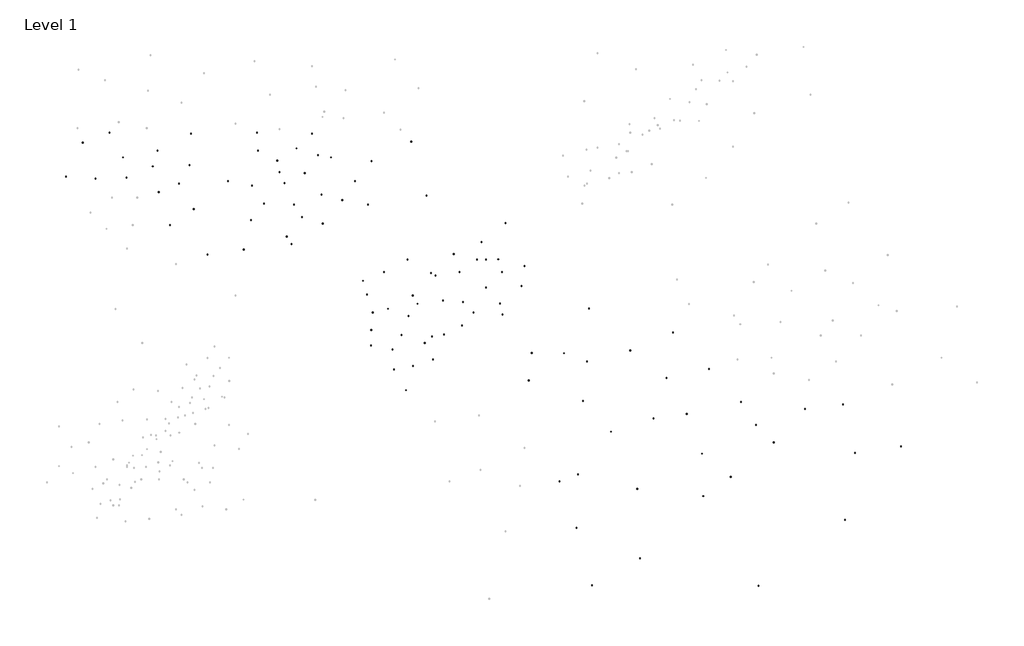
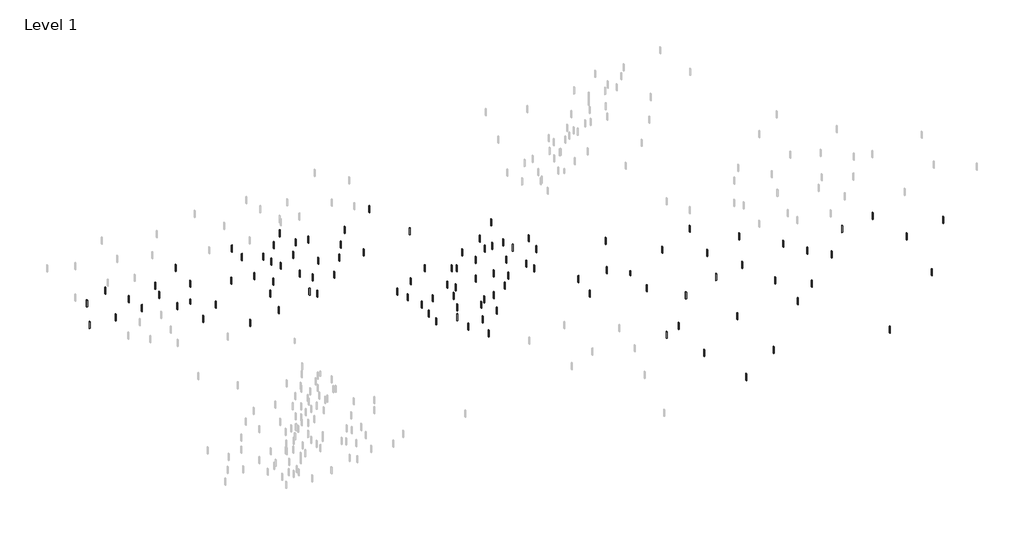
# One storey, part 2 of 3: 112 columns.
"""IFC4 building model written with IfcOpenShell, lengths in millimetres."""

from ifc_helpers import new_model, si_unit, origin, place, context, project, spatial, transform, mapped, element, save
from components import concrete_rectangular_column_12_x_18_4e544043, concrete_rectangular_column_12_x_18_d53c0298

model = new_model("IFC4")

# Units and contexts
model_context = context("Model", 3, world=origin())
ifc_project = project(units=[si_unit("LENGTHUNIT", "METRE", prefix="MILLI")], contexts=[model_context])

# Site, building, storey
site = spatial("IfcSite", under=ifc_project)
building = spatial("IfcBuilding", under=site)
storey = spatial("IfcBuildingStorey", under=building, Name="Level 1", Elevation=0.0)

# Columns
placement = place(None, origin())
concrete_rectangular_column_12_x_18_shape = concrete_rectangular_column_12_x_18_4e544043(model_context)
element("IfcColumn", 1, ObjectType="Concrete-Rectangular-Column : 12 x 18", at=placement, inside=storey, context=model_context, shape_type="MappedRepresentation", body=[
    mapped(concrete_rectangular_column_12_x_18_shape, transform((363757.8333105, 113456.6200125, 0.0), x_axis=(1.0, 0.0, 0.0), y_axis=(0.0, 1.0, 0.0), z_axis=(0.0, 0.0, 1.0))),
])
element("IfcColumn", 2, ObjectType="Concrete-Rectangular-Column : 12 x 18", at=placement, inside=storey, context=model_context, shape_type="MappedRepresentation", body=[
    mapped(concrete_rectangular_column_12_x_18_shape, transform((320395.7430506, 136221.7173989, 0.0), x_axis=(1.0, 0.0, 0.0), y_axis=(0.0, 1.0, 0.0), z_axis=(0.0, 0.0, 1.0))),
])
element("IfcColumn", 3, ObjectType="Concrete-Rectangular-Column : 12 x 18", at=placement, inside=storey, context=model_context, shape_type="MappedRepresentation", body=[
    mapped(concrete_rectangular_column_12_x_18_shape, transform((406035.8713138, 123213.090321, 0.0), x_axis=(1.0, 0.0, 0.0), y_axis=(0.0, 1.0, 0.0), z_axis=(0.0, 0.0, 1.0))),
])
element("IfcColumn", 4, ObjectType="Concrete-Rectangular-Column : 12 x 18", at=placement, inside=storey, context=model_context, shape_type="MappedRepresentation", body=[
    mapped(concrete_rectangular_column_12_x_18_shape, transform((372430.2513624, 104784.2019605, 0.0), x_axis=(1.0, 0.0, 0.0), y_axis=(0.0, 1.0, 0.0), z_axis=(0.0, 0.0, 1.0))),
])
element("IfcColumn", 5, ObjectType="Concrete-Rectangular-Column : 12 x 18", at=placement, inside=storey, context=model_context, shape_type="MappedRepresentation", body=[
    mapped(concrete_rectangular_column_12_x_18_shape, transform((340992.735924, 140557.9264249, 0.0), x_axis=(1.0, 0.0, 0.0), y_axis=(0.0, 1.0, 0.0), z_axis=(0.0, 0.0, 1.0))),
])
element("IfcColumn", 6, ObjectType="Concrete-Rectangular-Column : 12 x 18", at=placement, inside=storey, context=model_context, shape_type="MappedRepresentation", body=[
    mapped(concrete_rectangular_column_12_x_18_shape, transform((387606.9829534, 121044.985808, 0.0), x_axis=(1.0, 0.0, 0.0), y_axis=(0.0, 1.0, 0.0), z_axis=(0.0, 0.0, 1.0))),
])
element("IfcColumn", 7, ObjectType="Concrete-Rectangular-Column : 12 x 18", at=placement, inside=storey, context=model_context, shape_type="MappedRepresentation", body=[
    mapped(concrete_rectangular_column_12_x_18_shape, transform((434221.0131722, 102969.9321041, 0.0), x_axis=(1.0, 0.0, 0.0), y_axis=(0.0, 1.0, 0.0), z_axis=(0.0, 0.0, 1.0))),
])
element("IfcColumn", 8, ObjectType="Concrete-Rectangular-Column : 12 x 18", at=placement, inside=storey, context=model_context, shape_type="MappedRepresentation", body=[
    mapped(concrete_rectangular_column_12_x_18_shape, transform((279880.4824216, 125018.5793541, 0.0), x_axis=(1.0, 0.0, 0.0), y_axis=(0.0, 1.0, 0.0), z_axis=(0.0, 0.0, 1.0))),
])
element("IfcColumn", 9, ObjectType="Concrete-Rectangular-Column : 12 x 18", at=placement, inside=storey, context=model_context, shape_type="MappedRepresentation", body=[
    mapped(concrete_rectangular_column_12_x_18_shape, transform((197375.8669051, 142088.4998058, 0.0), x_axis=(1.0, 0.0, 0.0), y_axis=(0.0, 1.0, 0.0), z_axis=(0.0, 0.0, 1.0))),
])
element("IfcColumn", 10, ObjectType="Concrete-Rectangular-Column : 12 x 18", at=placement, inside=storey, context=model_context, shape_type="MappedRepresentation", body=[
    mapped(concrete_rectangular_column_12_x_18_shape, transform((240761.9147198, 166982.1337979, 0.0), x_axis=(1.0, 0.0, 0.0), y_axis=(0.0, 1.0, 0.0), z_axis=(0.0, 0.0, 1.0))),
])
element("IfcColumn", 11, ObjectType="Concrete-Rectangular-Column : 12 x 18", at=placement, inside=storey, context=model_context, shape_type="MappedRepresentation", body=[
    mapped(concrete_rectangular_column_12_x_18_shape, transform((139618.3187104, 220357.2656657, 0.0), x_axis=(1.0, 0.0, 0.0), y_axis=(0.0, 1.0, 0.0), z_axis=(0.0, 0.0, 1.0))),
])
element("IfcColumn", 12, ObjectType="Concrete-Rectangular-Column : 12 x 18", at=placement, inside=storey, context=model_context, shape_type="MappedRepresentation", body=[
    mapped(concrete_rectangular_column_12_x_18_shape, transform((119301.7974228, 229628.8782884, 0.0), x_axis=(1.0, 0.0, 0.0), y_axis=(0.0, 1.0, 0.0), z_axis=(0.0, 0.0, 1.0))),
])
element("IfcColumn", 13, ObjectType="Concrete-Rectangular-Column : 12 x 18", at=placement, inside=storey, context=model_context, shape_type="MappedRepresentation", body=[
    mapped(concrete_rectangular_column_12_x_18_shape, transform((132652.6542689, 236173.5460221, 0.0), x_axis=(1.0, 0.0, 0.0), y_axis=(0.0, 1.0, 0.0), z_axis=(0.0, 0.0, 1.0))),
])
element("IfcColumn", 14, ObjectType="Concrete-Rectangular-Column : 12 x 18", at=placement, inside=storey, context=model_context, shape_type="MappedRepresentation", body=[
    mapped(concrete_rectangular_column_12_x_18_shape, transform((107692.3566871, 231810.4341997, 0.0), x_axis=(1.0, 0.0, 0.0), y_axis=(0.0, 1.0, 0.0), z_axis=(0.0, 0.0, 1.0))),
])
element("IfcColumn", 15, ObjectType="Concrete-Rectangular-Column : 12 x 18", at=placement, inside=storey, context=model_context, shape_type="MappedRepresentation", body=[
    mapped(concrete_rectangular_column_12_x_18_shape, transform((118721.325386, 212721.8199764, 0.0), x_axis=(1.0, 0.0, 0.0), y_axis=(0.0, 1.0, 0.0), z_axis=(0.0, 0.0, 1.0))),
])
element("IfcColumn", 16, ObjectType="Concrete-Rectangular-Column : 12 x 18", at=placement, inside=storey, context=model_context, shape_type="MappedRepresentation", body=[
    mapped(concrete_rectangular_column_12_x_18_shape, transform((43259.9606037, 232901.2121553, 0.0), x_axis=(1.0, 0.0, 0.0), y_axis=(0.0, 1.0, 0.0), z_axis=(0.0, 0.0, 1.0))),
])
element("IfcColumn", 17, ObjectType="Concrete-Rectangular-Column : 12 x 18", at=placement, inside=storey, context=model_context, shape_type="MappedRepresentation", body=[
    mapped(concrete_rectangular_column_12_x_18_shape, transform((58352.2335602, 233446.6011331, 0.0), x_axis=(1.0, 0.0, 0.0), y_axis=(0.0, 1.0, 0.0), z_axis=(0.0, 0.0, 1.0))),
])
element("IfcColumn", 18, ObjectType="Concrete-Rectangular-Column : 12 x 18", at=placement, inside=storey, context=model_context, shape_type="MappedRepresentation", body=[
    mapped(concrete_rectangular_column_12_x_18_shape, transform((56610.8174498, 243263.6027336, 0.0), x_axis=(1.0, 0.0, 0.0), y_axis=(0.0, 1.0, 0.0), z_axis=(0.0, 0.0, 1.0))),
])
element("IfcColumn", 19, ObjectType="Concrete-Rectangular-Column : 12 x 18", at=placement, inside=storey, context=model_context, shape_type="MappedRepresentation", body=[
    mapped(concrete_rectangular_column_12_x_18_shape, transform((151227.7594461, 244354.3806892, 0.0), x_axis=(1.0, 0.0, 0.0), y_axis=(0.0, 1.0, 0.0), z_axis=(0.0, 0.0, 1.0))),
])
element("IfcColumn", 20, ObjectType="Concrete-Rectangular-Column : 12 x 18", at=placement, inside=storey, context=model_context, shape_type="MappedRepresentation", body=[
    mapped(concrete_rectangular_column_12_x_18_shape, transform((148325.3992622, 254716.7712675, 0.0), x_axis=(1.0, 0.0, 0.0), y_axis=(0.0, 1.0, 0.0), z_axis=(0.0, 0.0, 1.0))),
])
element("IfcColumn", 21, ObjectType="Concrete-Rectangular-Column : 12 x 18", at=placement, inside=storey, context=model_context, shape_type="MappedRepresentation", body=[
    mapped(concrete_rectangular_column_12_x_18_shape, transform((131491.7101953, 241627.4358002, 0.0), x_axis=(1.0, 0.0, 0.0), y_axis=(0.0, 1.0, 0.0), z_axis=(0.0, 0.0, 1.0))),
])
element("IfcColumn", 22, ObjectType="Concrete-Rectangular-Column : 12 x 18", at=placement, inside=storey, context=model_context, shape_type="MappedRepresentation", body=[
    mapped(concrete_rectangular_column_12_x_18_shape, transform((144842.5670415, 235628.1570443, 0.0), x_axis=(1.0, 0.0, 0.0), y_axis=(0.0, 1.0, 0.0), z_axis=(0.0, 0.0, 1.0))),
])
element("IfcColumn", 23, ObjectType="Concrete-Rectangular-Column : 12 x 18", at=placement, inside=storey, context=model_context, shape_type="MappedRepresentation", body=[
    mapped(concrete_rectangular_column_12_x_18_shape, transform((71122.6183695, 238900.4909111, 0.0), x_axis=(1.0, 0.0, 0.0), y_axis=(0.0, 1.0, 0.0), z_axis=(0.0, 0.0, 1.0))),
])
element("IfcColumn", 24, ObjectType="Concrete-Rectangular-Column : 12 x 18", at=placement, inside=storey, context=model_context, shape_type="MappedRepresentation", body=[
    mapped(concrete_rectangular_column_12_x_18_shape, transform((50225.6250451, 255262.1602453, 0.0), x_axis=(1.0, 0.0, 0.0), y_axis=(0.0, 1.0, 0.0), z_axis=(0.0, 0.0, 1.0))),
])
element("IfcColumn", 25, ObjectType="Concrete-Rectangular-Column : 12 x 18", at=placement, inside=storey, context=model_context, shape_type="MappedRepresentation", body=[
    mapped(concrete_rectangular_column_12_x_18_shape, transform((89697.7235467, 254716.7712675, 0.0), x_axis=(1.0, 0.0, 0.0), y_axis=(0.0, 1.0, 0.0), z_axis=(0.0, 0.0, 1.0))),
])
element("IfcColumn", 26, ObjectType="Concrete-Rectangular-Column : 12 x 18", at=placement, inside=storey, context=model_context, shape_type="MappedRepresentation", body=[
    mapped(concrete_rectangular_column_12_x_18_shape, transform((74024.9785534, 226356.5444216, 0.0), x_axis=(1.0, 0.0, 0.0), y_axis=(0.0, 1.0, 0.0), z_axis=(0.0, 0.0, 1.0))),
])
element("IfcColumn", 27, ObjectType="Concrete-Rectangular-Column : 12 x 18", at=placement, inside=storey, context=model_context, shape_type="MappedRepresentation", body=[
    mapped(concrete_rectangular_column_12_x_18_shape, transform((282725.4691635, 169827.1205398, 0.0), x_axis=(1.0, 0.0, 0.0), y_axis=(0.0, 1.0, 0.0), z_axis=(0.0, 0.0, 1.0))),
])
element("IfcColumn", 28, ObjectType="Concrete-Rectangular-Column : 12 x 18", at=placement, inside=storey, context=model_context, shape_type="MappedRepresentation", body=[
    mapped(concrete_rectangular_column_12_x_18_shape, transform((306196.6097846, 82343.7782249, 0.0), x_axis=(1.0, 0.0, 0.0), y_axis=(0.0, 1.0, 0.0), z_axis=(0.0, 0.0, 1.0))),
])
element("IfcColumn", 29, ObjectType="Concrete-Rectangular-Column : 12 x 18", at=placement, inside=storey, context=model_context, shape_type="MappedRepresentation", body=[
    mapped(concrete_rectangular_column_12_x_18_shape, transform((268500.5354538, 85900.0116524, 0.0), x_axis=(1.0, 0.0, 0.0), y_axis=(0.0, 1.0, 0.0), z_axis=(0.0, 0.0, 1.0))),
])
element("IfcColumn", 30, ObjectType="Concrete-Rectangular-Column : 12 x 18", at=placement, inside=storey, context=model_context, shape_type="MappedRepresentation", body=[
    mapped(concrete_rectangular_column_12_x_18_shape, transform((284147.9625345, 35401.4969828, 0.0), x_axis=(1.0, 0.0, 0.0), y_axis=(0.0, 1.0, 0.0), z_axis=(0.0, 0.0, 1.0))),
])
element("IfcColumn", 31, ObjectType="Concrete-Rectangular-Column : 12 x 18", at=placement, inside=storey, context=model_context, shape_type="MappedRepresentation", body=[
    mapped(concrete_rectangular_column_12_x_18_shape, transform((338202.7106315, 78787.5447975, 0.0), x_axis=(1.0, 0.0, 0.0), y_axis=(0.0, 1.0, 0.0), z_axis=(0.0, 0.0, 1.0))),
])
element("IfcColumn", 32, ObjectType="Concrete-Rectangular-Column : 12 x 18", at=placement, inside=storey, context=model_context, shape_type="MappedRepresentation", body=[
    mapped(concrete_rectangular_column_12_x_18_shape, transform((314020.323325, 116483.6191283, 0.0), x_axis=(1.0, 0.0, 0.0), y_axis=(0.0, 1.0, 0.0), z_axis=(0.0, 0.0, 1.0))),
])
element("IfcColumn", 33, ObjectType="Concrete-Rectangular-Column : 12 x 18", at=placement, inside=storey, context=model_context, shape_type="MappedRepresentation", body=[
    mapped(concrete_rectangular_column_12_x_18_shape, transform((253564.3550586, 134976.032951, 0.0), x_axis=(1.0, 0.0, 0.0), y_axis=(0.0, 1.0, 0.0), z_axis=(0.0, 0.0, 1.0))),
])
element("IfcColumn", 34, ObjectType="Concrete-Rectangular-Column : 12 x 18", at=placement, inside=storey, context=model_context, shape_type="MappedRepresentation", body=[
    mapped(concrete_rectangular_column_12_x_18_shape, transform((115238.4931653, 198541.7065535, 0.0), x_axis=(1.0, 0.0, 0.0), y_axis=(0.0, 1.0, 0.0), z_axis=(0.0, 0.0, 1.0))),
])
element("IfcColumn", 35, ObjectType="Concrete-Rectangular-Column : 12 x 18", at=placement, inside=storey, context=model_context, shape_type="MappedRepresentation", body=[
    mapped(concrete_rectangular_column_12_x_18_shape, transform((138457.3746368, 201268.6514425, 0.0), x_axis=(1.0, 0.0, 0.0), y_axis=(0.0, 1.0, 0.0), z_axis=(0.0, 0.0, 1.0))),
])
element("IfcColumn", 36, ObjectType="Concrete-Rectangular-Column : 12 x 18", at=placement, inside=storey, context=model_context, shape_type="MappedRepresentation", body=[
    mapped(concrete_rectangular_column_12_x_18_shape, transform((134974.5424161, 230719.656244, 0.0), x_axis=(1.0, 0.0, 0.0), y_axis=(0.0, 1.0, 0.0), z_axis=(0.0, 0.0, 1.0))),
])
element("IfcColumn", 37, ObjectType="Concrete-Rectangular-Column : 12 x 18", at=placement, inside=storey, context=model_context, shape_type="MappedRepresentation", body=[
    mapped(concrete_rectangular_column_12_x_18_shape, transform((169222.3925865, 231810.4341997, 0.0), x_axis=(1.0, 0.0, 0.0), y_axis=(0.0, 1.0, 0.0), z_axis=(0.0, 0.0, 1.0))),
])
element("IfcColumn", 38, ObjectType="Concrete-Rectangular-Column : 12 x 18", at=placement, inside=storey, context=model_context, shape_type="MappedRepresentation", body=[
    mapped(concrete_rectangular_column_12_x_18_shape, transform((157612.9518508, 243263.6027336, 0.0), x_axis=(1.0, 0.0, 0.0), y_axis=(0.0, 1.0, 0.0), z_axis=(0.0, 0.0, 1.0))),
])
element("IfcColumn", 39, ObjectType="Concrete-Rectangular-Column : 12 x 18", at=placement, inside=storey, context=model_context, shape_type="MappedRepresentation", body=[
    mapped(concrete_rectangular_column_12_x_18_shape, transform((196504.5783155, 250899.0484229, 0.0), x_axis=(1.0, 0.0, 0.0), y_axis=(0.0, 1.0, 0.0), z_axis=(0.0, 0.0, 1.0))),
])
element("IfcColumn", 40, ObjectType="Concrete-Rectangular-Column : 12 x 18", at=placement, inside=storey, context=model_context, shape_type="MappedRepresentation", body=[
    mapped(concrete_rectangular_column_12_x_18_shape, transform((140779.2627839, 247626.714556, 0.0), x_axis=(1.0, 0.0, 0.0), y_axis=(0.0, 1.0, 0.0), z_axis=(0.0, 0.0, 1.0))),
])
element("IfcColumn", 41, ObjectType="Concrete-Rectangular-Column : 12 x 18", at=placement, inside=storey, context=model_context, shape_type="MappedRepresentation", body=[
    mapped(concrete_rectangular_column_12_x_18_shape, transform((121623.68557, 255262.1602453, 0.0), x_axis=(1.0, 0.0, 0.0), y_axis=(0.0, 1.0, 0.0), z_axis=(0.0, 0.0, 1.0))),
])
element("IfcColumn", 42, ObjectType="Concrete-Rectangular-Column : 12 x 18", at=placement, inside=storey, context=model_context, shape_type="MappedRepresentation", body=[
    mapped(concrete_rectangular_column_12_x_18_shape, transform((122204.1576068, 246535.9366004, 0.0), x_axis=(1.0, 0.0, 0.0), y_axis=(0.0, 1.0, 0.0), z_axis=(0.0, 0.0, 1.0))),
])
element("IfcColumn", 43, ObjectType="Concrete-Rectangular-Column : 12 x 18", at=placement, inside=storey, context=model_context, shape_type="MappedRepresentation", body=[
    mapped(concrete_rectangular_column_12_x_18_shape, transform((152969.1755565, 225265.766466, 0.0), x_axis=(1.0, 0.0, 0.0), y_axis=(0.0, 1.0, 0.0), z_axis=(0.0, 0.0, 1.0))),
])
element("IfcColumn", 44, ObjectType="Concrete-Rectangular-Column : 12 x 18", at=placement, inside=storey, context=model_context, shape_type="MappedRepresentation", body=[
    mapped(concrete_rectangular_column_12_x_18_shape, transform((125106.5177907, 220902.6546435, 0.0), x_axis=(1.0, 0.0, 0.0), y_axis=(0.0, 1.0, 0.0), z_axis=(0.0, 0.0, 1.0))),
])
element("IfcColumn", 45, ObjectType="Concrete-Rectangular-Column : 12 x 18", at=placement, inside=storey, context=model_context, shape_type="MappedRepresentation", body=[
    mapped(concrete_rectangular_column_12_x_18_shape, transform((173193.4795986, 183340.8075641, 0.0), x_axis=(1.0, 0.0, 0.0), y_axis=(0.0, 1.0, 0.0), z_axis=(0.0, 0.0, 1.0))),
])
element("IfcColumn", 46, ObjectType="Concrete-Rectangular-Column : 12 x 18", at=placement, inside=storey, context=model_context, shape_type="MappedRepresentation", body=[
    mapped(concrete_rectangular_column_12_x_18_shape, transform((175607.5849912, 220357.2656657, 0.0), x_axis=(1.0, 0.0, 0.0), y_axis=(0.0, 1.0, 0.0), z_axis=(0.0, 0.0, 1.0))),
])
element("IfcColumn", 47, ObjectType="Concrete-Rectangular-Column : 12 x 18", at=placement, inside=storey, context=model_context, shape_type="MappedRepresentation", body=[
    mapped(concrete_rectangular_column_12_x_18_shape, transform((206622.0738165, 156313.4335156, 0.0), x_axis=(1.0, 0.0, 0.0), y_axis=(0.0, 1.0, 0.0), z_axis=(0.0, 0.0, 1.0))),
])
element("IfcColumn", 48, ObjectType="Concrete-Rectangular-Column : 12 x 18", at=placement, inside=storey, context=model_context, shape_type="MappedRepresentation", body=[
    mapped(concrete_rectangular_column_12_x_18_shape, transform((194766.1156975, 193730.9777909, 0.0), x_axis=(1.0, 0.0, 0.0), y_axis=(0.0, 1.0, 0.0), z_axis=(0.0, 0.0, 1.0))),
])
element("IfcColumn", 49, ObjectType="Concrete-Rectangular-Column : 12 x 18", at=placement, inside=storey, context=model_context, shape_type="MappedRepresentation", body=[
    mapped(concrete_rectangular_column_12_x_18_shape, transform((177191.7441578, 241475.8859571, 0.0), x_axis=(1.0, 0.0, 0.0), y_axis=(0.0, 1.0, 0.0), z_axis=(0.0, 0.0, 1.0))),
])
element("IfcColumn", 50, ObjectType="Concrete-Rectangular-Column : 12 x 18", at=placement, inside=storey, context=model_context, shape_type="MappedRepresentation", body=[
    mapped(concrete_rectangular_column_12_x_18_shape, transform((163052.7854946, 222498.1483233, 0.0), x_axis=(1.0, 0.0, 0.0), y_axis=(0.0, 1.0, 0.0), z_axis=(0.0, 0.0, 1.0))),
])
element("IfcColumn", 51, ObjectType="Concrete-Rectangular-Column : 12 x 18", at=placement, inside=storey, context=model_context, shape_type="MappedRepresentation", body=[
    mapped(concrete_rectangular_column_12_x_18_shape, transform((136121.43566, 204785.5931983, 0.0), x_axis=(1.0, 0.0, 0.0), y_axis=(0.0, 1.0, 0.0), z_axis=(0.0, 0.0, 1.0))),
])
element("IfcColumn", 52, ObjectType="Concrete-Rectangular-Column : 12 x 18", at=placement, inside=storey, context=model_context, shape_type="MappedRepresentation", body=[
    mapped(concrete_rectangular_column_12_x_18_shape, transform((143527.5568645, 214274.4620152, 0.0), x_axis=(1.0, 0.0, 0.0), y_axis=(0.0, 1.0, 0.0), z_axis=(0.0, 0.0, 1.0))),
])
element("IfcColumn", 53, ObjectType="Concrete-Rectangular-Column : 12 x 18", at=placement, inside=storey, context=model_context, shape_type="MappedRepresentation", body=[
    mapped(concrete_rectangular_column_12_x_18_shape, transform((153626.8130525, 211111.5057429, 0.0), x_axis=(1.0, 0.0, 0.0), y_axis=(0.0, 1.0, 0.0), z_axis=(0.0, 0.0, 1.0))),
])
element("IfcColumn", 54, ObjectType="Concrete-Rectangular-Column : 12 x 18", at=placement, inside=storey, context=model_context, shape_type="MappedRepresentation", body=[
    mapped(concrete_rectangular_column_12_x_18_shape, transform((73506.0472945, 246536.6159928, 0.0), x_axis=(1.0, 0.0, 0.0), y_axis=(0.0, 1.0, 0.0), z_axis=(0.0, 0.0, 1.0))),
])
element("IfcColumn", 55, ObjectType="Concrete-Rectangular-Column : 12 x 18", at=placement, inside=storey, context=model_context, shape_type="MappedRepresentation", body=[
    mapped(concrete_rectangular_column_12_x_18_shape, transform((88991.5734494, 239578.1121937, 0.0), x_axis=(1.0, 0.0, 0.0), y_axis=(0.0, 1.0, 0.0), z_axis=(0.0, 0.0, 1.0))),
])
element("IfcColumn", 56, ObjectType="Concrete-Rectangular-Column : 12 x 18", at=placement, inside=storey, context=model_context, shape_type="MappedRepresentation", body=[
    mapped(concrete_rectangular_column_12_x_18_shape, transform((91011.424687, 218070.009542, 0.0), x_axis=(1.0, 0.0, 0.0), y_axis=(0.0, 1.0, 0.0), z_axis=(0.0, 0.0, 1.0))),
])
element("IfcColumn", 57, ObjectType="Concrete-Rectangular-Column : 12 x 18", at=placement, inside=storey, context=model_context, shape_type="MappedRepresentation", body=[
    mapped(concrete_rectangular_column_12_x_18_shape, transform((79565.6010072, 210478.9144885, 0.0), x_axis=(1.0, 0.0, 0.0), y_axis=(0.0, 1.0, 0.0), z_axis=(0.0, 0.0, 1.0))),
])
element("IfcColumn", 58, ObjectType="Concrete-Rectangular-Column : 12 x 18", at=placement, inside=storey, context=model_context, shape_type="MappedRepresentation", body=[
    mapped(concrete_rectangular_column_12_x_18_shape, transform((29069.3200673, 233884.7909036, 0.0), x_axis=(1.0, 0.0, 0.0), y_axis=(0.0, 1.0, 0.0), z_axis=(0.0, 0.0, 1.0))),
])
element("IfcColumn", 59, ObjectType="Concrete-Rectangular-Column : 12 x 18", at=placement, inside=storey, context=model_context, shape_type="MappedRepresentation", body=[
    mapped(concrete_rectangular_column_12_x_18_shape, transform((37148.7250177, 250332.1635196, 0.0), x_axis=(1.0, 0.0, 0.0), y_axis=(0.0, 1.0, 0.0), z_axis=(0.0, 0.0, 1.0))),
])
element("IfcColumn", 60, ObjectType="Concrete-Rectangular-Column : 12 x 18", at=placement, inside=storey, context=model_context, shape_type="MappedRepresentation", body=[
    mapped(concrete_rectangular_column_12_x_18_shape, transform((356459.8360647, 124433.669062, 0.0), x_axis=(1.0, 0.0, 0.0), y_axis=(0.0, 1.0, 0.0), z_axis=(0.0, 0.0, 1.0))),
])
element("IfcColumn", 61, ObjectType="Concrete-Rectangular-Column : 12 x 18", at=placement, inside=storey, context=model_context, shape_type="MappedRepresentation", body=[
    mapped(concrete_rectangular_column_12_x_18_shape, transform((323461.1176224, 158257.3554654, 0.0), x_axis=(1.0, 0.0, 0.0), y_axis=(0.0, 1.0, 0.0), z_axis=(0.0, 0.0, 1.0))),
])
element("IfcColumn", 62, ObjectType="Concrete-Rectangular-Column : 12 x 18", at=placement, inside=storey, context=model_context, shape_type="MappedRepresentation", body=[
    mapped(concrete_rectangular_column_12_x_18_shape, transform((351510.0282984, 88135.0787755, 0.0), x_axis=(1.0, 0.0, 0.0), y_axis=(0.0, 1.0, 0.0), z_axis=(0.0, 0.0, 1.0))),
])
element("IfcColumn", 63, ObjectType="Concrete-Rectangular-Column : 12 x 18", at=placement, inside=storey, context=model_context, shape_type="MappedRepresentation", body=[
    mapped(concrete_rectangular_column_12_x_18_shape, transform((411732.6894556, 99684.6302303, 0.0), x_axis=(1.0, 0.0, 0.0), y_axis=(0.0, 1.0, 0.0), z_axis=(0.0, 0.0, 1.0))),
])
element("IfcColumn", 64, ObjectType="Concrete-Rectangular-Column : 12 x 18", at=placement, inside=storey, context=model_context, shape_type="MappedRepresentation", body=[
    mapped(concrete_rectangular_column_12_x_18_shape, transform((254988.7768546, 148357.7399327, 0.0), x_axis=(1.0, 0.0, 0.0), y_axis=(0.0, 1.0, 0.0), z_axis=(0.0, 0.0, 1.0))),
])
element("IfcColumn", 65, ObjectType="Concrete-Rectangular-Column : 12 x 18", at=placement, inside=storey, context=model_context, shape_type="MappedRepresentation", body=[
    mapped(concrete_rectangular_column_12_x_18_shape, transform((207140.6351133, 145057.8680885, 0.0), x_axis=(1.0, 0.0, 0.0), y_axis=(0.0, 1.0, 0.0), z_axis=(0.0, 0.0, 1.0))),
])
element("IfcColumn", 66, ObjectType="Concrete-Rectangular-Column : 12 x 18", at=placement, inside=storey, context=model_context, shape_type="MappedRepresentation", body=[
    mapped(concrete_rectangular_column_12_x_18_shape, transform((232714.6419061, 193730.9777909, 0.0), x_axis=(1.0, 0.0, 0.0), y_axis=(0.0, 1.0, 0.0), z_axis=(0.0, 0.0, 1.0))),
])
element("IfcColumn", 67, ObjectType="Concrete-Rectangular-Column : 12 x 18", at=placement, inside=storey, context=model_context, shape_type="MappedRepresentation", body=[
    mapped(concrete_rectangular_column_12_x_18_shape, transform((221165.0904513, 161557.2273096, 0.0), x_axis=(1.0, 0.0, 0.0), y_axis=(0.0, 1.0, 0.0), z_axis=(0.0, 0.0, 1.0))),
])
element("IfcColumn", 68, ObjectType="Concrete-Rectangular-Column : 12 x 18", at=placement, inside=storey, context=model_context, shape_type="MappedRepresentation", body=[
    mapped(concrete_rectangular_column_12_x_18_shape, transform((193941.1477364, 130208.4447894, 0.0), x_axis=(1.0, 0.0, 0.0), y_axis=(0.0, 1.0, 0.0), z_axis=(0.0, 0.0, 1.0))),
])
element("IfcColumn", 69, ObjectType="Concrete-Rectangular-Column : 12 x 18", at=placement, inside=storey, context=model_context, shape_type="MappedRepresentation", body=[
    mapped(concrete_rectangular_column_12_x_18_shape, transform((97643.8156297, 196111.2894848, 0.0), x_axis=(1.0, 0.0, 0.0), y_axis=(0.0, 1.0, 0.0), z_axis=(0.0, 0.0, 1.0))),
])
element("IfcColumn", 70, ObjectType="Concrete-Rectangular-Column : 12 x 18", at=placement, inside=storey, context=model_context, shape_type="MappedRepresentation", body=[
    mapped(concrete_rectangular_column_12_x_18_shape, transform((203988.9832892, 224805.6287872, 0.0), x_axis=(1.0, 0.0, 0.0), y_axis=(0.0, 1.0, 0.0), z_axis=(0.0, 0.0, 1.0))),
])
element("IfcColumn", 71, ObjectType="Concrete-Rectangular-Column : 12 x 18", at=placement, inside=storey, context=model_context, shape_type="MappedRepresentation", body=[
    mapped(concrete_rectangular_column_12_x_18_shape, transform((302788.0895831, 149519.017787, 0.0), x_axis=(1.0, 0.0, 0.0), y_axis=(0.0, 1.0, 0.0), z_axis=(0.0, 0.0, 1.0))),
])
element("IfcColumn", 72, ObjectType="Concrete-Rectangular-Column : 12 x 18", at=placement, inside=storey, context=model_context, shape_type="MappedRepresentation", body=[
    mapped(concrete_rectangular_column_12_x_18_shape, transform((270713.3352571, 148182.56969, 0.0), x_axis=(1.0, 0.0, 0.0), y_axis=(0.0, 1.0, 0.0), z_axis=(0.0, 0.0, 1.0))),
])
element("IfcColumn", 73, ObjectType="Concrete-Rectangular-Column : 12 x 18", at=placement, inside=storey, context=model_context, shape_type="MappedRepresentation", body=[
    mapped(concrete_rectangular_column_12_x_18_shape, transform((337535.7401028, 99402.2141527, 0.0), x_axis=(1.0, 0.0, 0.0), y_axis=(0.0, 1.0, 0.0), z_axis=(0.0, 0.0, 1.0))),
])
element("IfcColumn", 74, ObjectType="Concrete-Rectangular-Column : 12 x 18", at=placement, inside=storey, context=model_context, shape_type="MappedRepresentation", body=[
    mapped(concrete_rectangular_column_12_x_18_shape, transform((330185.2755698, 118780.711558, 0.0), x_axis=(1.0, 0.0, 0.0), y_axis=(0.0, 1.0, 0.0), z_axis=(0.0, 0.0, 1.0))),
])
element("IfcColumn", 75, ObjectType="Concrete-Rectangular-Column : 12 x 18", at=placement, inside=storey, context=model_context, shape_type="MappedRepresentation", body=[
    mapped(concrete_rectangular_column_12_x_18_shape, transform((277395.5757417, 89378.8534259, 0.0), x_axis=(1.0, 0.0, 0.0), y_axis=(0.0, 1.0, 0.0), z_axis=(0.0, 0.0, 1.0))),
])
element("IfcColumn", 76, ObjectType="Concrete-Rectangular-Column : 12 x 18", at=placement, inside=storey, context=model_context, shape_type="MappedRepresentation", body=[
    mapped(concrete_rectangular_column_12_x_18_shape, transform((293432.9529047, 110093.798928, 0.0), x_axis=(1.0, 0.0, 0.0), y_axis=(0.0, 1.0, 0.0), z_axis=(0.0, 0.0, 1.0))),
])
element("IfcColumn", 77, ObjectType="Concrete-Rectangular-Column : 12 x 18", at=placement, inside=storey, context=model_context, shape_type="MappedRepresentation", body=[
    mapped(concrete_rectangular_column_12_x_18_shape, transform((407031.0411423, 67327.4598268, 0.0), x_axis=(1.0, 0.0, 0.0), y_axis=(0.0, 1.0, 0.0), z_axis=(0.0, 0.0, 1.0))),
])
element("IfcColumn", 78, ObjectType="Concrete-Rectangular-Column : 12 x 18", at=placement, inside=storey, context=model_context, shape_type="MappedRepresentation", body=[
    mapped(concrete_rectangular_column_12_x_18_shape, transform((364932.9260895, 35252.7055009, 0.0), x_axis=(1.0, 0.0, 0.0), y_axis=(0.0, 1.0, 0.0), z_axis=(0.0, 0.0, 1.0))),
])
element("IfcColumn", 79, ObjectType="Concrete-Rectangular-Column : 12 x 18", at=placement, inside=storey, context=model_context, shape_type="MappedRepresentation", body=[
    mapped(concrete_rectangular_column_12_x_18_shape, transform((307465.6579223, 48617.18647, 0.0), x_axis=(1.0, 0.0, 0.0), y_axis=(0.0, 1.0, 0.0), z_axis=(0.0, 0.0, 1.0))),
])
element("IfcColumn", 80, ObjectType="Concrete-Rectangular-Column : 12 x 18", at=placement, inside=storey, context=model_context, shape_type="MappedRepresentation", body=[
    mapped(concrete_rectangular_column_12_x_18_shape, transform((276727.3516933, 63318.1155361, 0.0), x_axis=(1.0, 0.0, 0.0), y_axis=(0.0, 1.0, 0.0), z_axis=(0.0, 0.0, 1.0))),
])
element("IfcColumn", 81, ObjectType="Concrete-Rectangular-Column : 12 x 18", at=placement, inside=storey, context=model_context, shape_type="MappedRepresentation", body=[
    mapped(concrete_rectangular_column_12_x_18_shape, transform((187508.896985, 149920.7255701, 0.0), x_axis=(1.0, 0.0, 0.0), y_axis=(0.0, 1.0, 0.0), z_axis=(0.0, 0.0, 1.0))),
])
element("IfcColumn", 82, ObjectType="Concrete-Rectangular-Column : 12 x 18", at=placement, inside=storey, context=model_context, shape_type="MappedRepresentation", body=[
    mapped(concrete_rectangular_column_12_x_18_shape, transform((217140.354332, 196342.1141509, 0.0), x_axis=(1.0, 0.0, 0.0), y_axis=(0.0, 1.0, 0.0), z_axis=(0.0, 0.0, 1.0))),
])
element("IfcColumn", 83, ObjectType="Concrete-Rectangular-Column : 12 x 18", at=placement, inside=storey, context=model_context, shape_type="MappedRepresentation", body=[
    mapped(concrete_rectangular_column_12_x_18_shape, transform((228382.982377, 193698.7922157, 0.0), x_axis=(1.0, 0.0, 0.0), y_axis=(0.0, 1.0, 0.0), z_axis=(0.0, 0.0, 1.0))),
])
element("IfcColumn", 84, ObjectType="Concrete-Rectangular-Column : 12 x 18", at=placement, inside=storey, context=model_context, shape_type="MappedRepresentation", body=[
    mapped(concrete_rectangular_column_12_x_18_shape, transform((250009.5625969, 180740.1914942, 0.0), x_axis=(1.0, 0.0, 0.0), y_axis=(0.0, 1.0, 0.0), z_axis=(0.0, 0.0, 1.0))),
])
element("IfcColumn", 85, ObjectType="Concrete-Rectangular-Column : 12 x 18", at=placement, inside=storey, context=model_context, shape_type="MappedRepresentation", body=[
    mapped(concrete_rectangular_column_12_x_18_shape, transform((238735.2921624, 193765.3756844, 0.0), x_axis=(1.0, 0.0, 0.0), y_axis=(0.0, 1.0, 0.0), z_axis=(0.0, 0.0, 1.0))),
])
element("IfcColumn", 86, ObjectType="Concrete-Rectangular-Column : 12 x 18", at=placement, inside=storey, context=model_context, shape_type="MappedRepresentation", body=[
    mapped(concrete_rectangular_column_12_x_18_shape, transform((242316.9088681, 211390.7996202, 0.0), x_axis=(1.0, 0.0, 0.0), y_axis=(0.0, 1.0, 0.0), z_axis=(0.0, 0.0, 1.0))),
])
element("IfcColumn", 87, ObjectType="Concrete-Rectangular-Column : 12 x 18", at=placement, inside=storey, context=model_context, shape_type="MappedRepresentation", body=[
    mapped(concrete_rectangular_column_12_x_18_shape, transform((230533.4782941, 202185.2277038, 0.0), x_axis=(1.0, 0.0, 0.0), y_axis=(0.0, 1.0, 0.0), z_axis=(0.0, 0.0, 1.0))),
])
element("IfcColumn", 88, ObjectType="Concrete-Rectangular-Column : 12 x 18", at=placement, inside=storey, context=model_context, shape_type="MappedRepresentation", body=[
    mapped(concrete_rectangular_column_12_x_18_shape, transform((219856.7248779, 187526.9885444, 0.0), x_axis=(1.0, 0.0, 0.0), y_axis=(0.0, 1.0, 0.0), z_axis=(0.0, 0.0, 1.0))),
])
element("IfcColumn", 89, ObjectType="Concrete-Rectangular-Column : 12 x 18", at=placement, inside=storey, context=model_context, shape_type="MappedRepresentation", body=[
    mapped(concrete_rectangular_column_12_x_18_shape, transform((211897.39509, 173792.3967147, 0.0), x_axis=(1.0, 0.0, 0.0), y_axis=(0.0, 1.0, 0.0), z_axis=(0.0, 0.0, 1.0))),
])
element("IfcColumn", 90, ObjectType="Concrete-Rectangular-Column : 12 x 18", at=placement, inside=storey, context=model_context, shape_type="MappedRepresentation", body=[
    mapped(concrete_rectangular_column_12_x_18_shape, transform((206074.6639368, 187208.008759, 0.0), x_axis=(1.0, 0.0, 0.0), y_axis=(0.0, 1.0, 0.0), z_axis=(0.0, 0.0, 1.0))),
])
element("IfcColumn", 91, ObjectType="Concrete-Rectangular-Column : 12 x 18", at=placement, inside=storey, context=model_context, shape_type="MappedRepresentation", body=[
    mapped(concrete_rectangular_column_12_x_18_shape, transform((197237.9746378, 176173.7744624, 0.0), x_axis=(1.0, 0.0, 0.0), y_axis=(0.0, 1.0, 0.0), z_axis=(0.0, 0.0, 1.0))),
])
element("IfcColumn", 92, ObjectType="Concrete-Rectangular-Column : 12 x 18", at=placement, inside=storey, context=model_context, shape_type="MappedRepresentation", body=[
    mapped(concrete_rectangular_column_12_x_18_shape, transform((183259.7739878, 187612.1784292, 0.0), x_axis=(1.0, 0.0, 0.0), y_axis=(0.0, 1.0, 0.0), z_axis=(0.0, 0.0, 1.0))),
])
element("IfcColumn", 93, ObjectType="Concrete-Rectangular-Column : 12 x 18", at=placement, inside=storey, context=model_context, shape_type="MappedRepresentation", body=[
    mapped(concrete_rectangular_column_12_x_18_shape, transform((177872.6846417, 167838.5465634, 0.0), x_axis=(1.0, 0.0, 0.0), y_axis=(0.0, 1.0, 0.0), z_axis=(0.0, 0.0, 1.0))),
])
element("IfcColumn", 94, ObjectType="Concrete-Rectangular-Column : 12 x 18", at=placement, inside=storey, context=model_context, shape_type="MappedRepresentation", body=[
    mapped(concrete_rectangular_column_12_x_18_shape, transform((175127.8684497, 176626.0011071, 0.0), x_axis=(1.0, 0.0, 0.0), y_axis=(0.0, 1.0, 0.0), z_axis=(0.0, 0.0, 1.0))),
])
element("IfcColumn", 95, ObjectType="Concrete-Rectangular-Column : 12 x 18", at=placement, inside=storey, context=model_context, shape_type="MappedRepresentation", body=[
    mapped(concrete_rectangular_column_12_x_18_shape, transform((177135.2955075, 159499.1394625, 0.0), x_axis=(1.0, 0.0, 0.0), y_axis=(0.0, 1.0, 0.0), z_axis=(0.0, 0.0, 1.0))),
])
element("IfcColumn", 96, ObjectType="Concrete-Rectangular-Column : 12 x 18", at=placement, inside=storey, context=model_context, shape_type="MappedRepresentation", body=[
    mapped(concrete_rectangular_column_12_x_18_shape, transform((177030.8058297, 151906.9573538, 0.0), x_axis=(1.0, 0.0, 0.0), y_axis=(0.0, 1.0, 0.0), z_axis=(0.0, 0.0, 1.0))),
])
element("IfcColumn", 97, ObjectType="Concrete-Rectangular-Column : 12 x 18", at=placement, inside=storey, context=model_context, shape_type="MappedRepresentation", body=[
    mapped(concrete_rectangular_column_12_x_18_shape, transform((188237.915685, 140340.0312248, 0.0), x_axis=(1.0, 0.0, 0.0), y_axis=(0.0, 1.0, 0.0), z_axis=(0.0, 0.0, 1.0))),
])
element("IfcColumn", 98, ObjectType="Concrete-Rectangular-Column : 12 x 18", at=placement, inside=storey, context=model_context, shape_type="MappedRepresentation", body=[
    mapped(concrete_rectangular_column_12_x_18_shape, transform((203098.2791542, 153131.8877637, 0.0), x_axis=(1.0, 0.0, 0.0), y_axis=(0.0, 1.0, 0.0), z_axis=(0.0, 0.0, 1.0))),
])
element("IfcColumn", 99, ObjectType="Concrete-Rectangular-Column : 12 x 18", at=placement, inside=storey, context=model_context, shape_type="MappedRepresentation", body=[
    mapped(concrete_rectangular_column_12_x_18_shape, transform((212429.3867725, 157262.8777756, 0.0), x_axis=(1.0, 0.0, 0.0), y_axis=(0.0, 1.0, 0.0), z_axis=(0.0, 0.0, 1.0))),
])
element("IfcColumn", 100, ObjectType="Concrete-Rectangular-Column : 12 x 18", at=placement, inside=storey, context=model_context, shape_type="MappedRepresentation", body=[
    mapped(concrete_rectangular_column_12_x_18_shape, transform((239573.9732074, 172368.818007, 0.0), x_axis=(1.0, 0.0, 0.0), y_axis=(0.0, 1.0, 0.0), z_axis=(0.0, 0.0, 1.0))),
])
element("IfcColumn", 101, ObjectType="Concrete-Rectangular-Column : 12 x 18", at=placement, inside=storey, context=model_context, shape_type="MappedRepresentation", body=[
    mapped(concrete_rectangular_column_12_x_18_shape, transform((251389.2758301, 190535.1271549, 0.0), x_axis=(1.0, 0.0, 0.0), y_axis=(0.0, 1.0, 0.0), z_axis=(0.0, 0.0, 1.0))),
])
element("IfcColumn", 102, ObjectType="Concrete-Rectangular-Column : 12 x 18", at=placement, inside=storey, context=model_context, shape_type="MappedRepresentation", body=[
    mapped(concrete_rectangular_column_12_x_18_shape, transform((240551.3192575, 187660.8154878, 0.0), x_axis=(1.0, 0.0, 0.0), y_axis=(0.0, 1.0, 0.0), z_axis=(0.0, 0.0, 1.0))),
])
element("IfcColumn", 103, ObjectType="Concrete-Rectangular-Column : 12 x 18", at=placement, inside=storey, context=model_context, shape_type="MappedRepresentation", body=[
    mapped(concrete_rectangular_column_12_x_18_shape, transform((232809.6062319, 180169.1949644, 0.0), x_axis=(1.0, 0.0, 0.0), y_axis=(0.0, 1.0, 0.0), z_axis=(0.0, 0.0, 1.0))),
])
element("IfcColumn", 104, ObjectType="Concrete-Rectangular-Column : 12 x 18", at=placement, inside=storey, context=model_context, shape_type="MappedRepresentation", body=[
    mapped(concrete_rectangular_column_12_x_18_shape, transform((226797.5226802, 167977.1143326, 0.0), x_axis=(1.0, 0.0, 0.0), y_axis=(0.0, 1.0, 0.0), z_axis=(0.0, 0.0, 1.0))),
])
element("IfcColumn", 105, ObjectType="Concrete-Rectangular-Column : 12 x 18", at=placement, inside=storey, context=model_context, shape_type="MappedRepresentation", body=[
    mapped(concrete_rectangular_column_12_x_18_shape, transform((199604.9860105, 172198.5588364, 0.0), x_axis=(1.0, 0.0, 0.0), y_axis=(0.0, 1.0, 0.0), z_axis=(0.0, 0.0, 1.0))),
])
element("IfcColumn", 106, ObjectType="Concrete-Rectangular-Column : 12 x 18", at=placement, inside=storey, context=model_context, shape_type="MappedRepresentation", body=[
    mapped(concrete_rectangular_column_12_x_18_shape, transform((208236.516285, 185980.9487363, 0.0), x_axis=(1.0, 0.0, 0.0), y_axis=(0.0, 1.0, 0.0), z_axis=(0.0, 0.0, 1.0))),
])
element("IfcColumn", 107, ObjectType="Concrete-Rectangular-Column : 12 x 18", at=placement, inside=storey, context=model_context, shape_type="MappedRepresentation", body=[
    mapped(concrete_rectangular_column_12_x_18_shape, transform((221598.6078476, 173122.1736172, 0.0), x_axis=(1.0, 0.0, 0.0), y_axis=(0.0, 1.0, 0.0), z_axis=(0.0, 0.0, 1.0))),
])
element("IfcColumn", 108, ObjectType="Concrete-Rectangular-Column : 12 x 18", at=placement, inside=storey, context=model_context, shape_type="MappedRepresentation", body=[
    mapped(concrete_rectangular_column_12_x_18_shape, transform((191781.5999159, 157125.7830171, 0.0), x_axis=(1.0, 0.0, 0.0), y_axis=(0.0, 1.0, 0.0), z_axis=(0.0, 0.0, 1.0))),
])
element("IfcColumn", 109, ObjectType="Concrete-Rectangular-Column : 12 x 18", at=placement, inside=storey, context=model_context, shape_type="MappedRepresentation", body=[
    mapped(concrete_rectangular_column_12_x_18_shape, transform((195218.9036435, 166349.0900092, 0.0), x_axis=(1.0, 0.0, 0.0), y_axis=(0.0, 1.0, 0.0), z_axis=(0.0, 0.0, 1.0))),
])
element("IfcColumn", 110, ObjectType="Concrete-Rectangular-Column : 12 x 18", at=placement, inside=storey, context=model_context, shape_type="MappedRepresentation", body=[
    mapped(concrete_rectangular_column_12_x_18_shape, transform((185309.2950008, 169766.5832877, 0.0), x_axis=(1.0, 0.0, 0.0), y_axis=(0.0, 1.0, 0.0), z_axis=(0.0, 0.0, 1.0))),
])
concrete_rectangular_column_12_x_18_2_shape = concrete_rectangular_column_12_x_18_d53c0298(model_context)
element("IfcColumn", 111, ObjectType="Concrete-Rectangular-Column : 12 x 18", at=placement, inside=storey, context=model_context, shape_type="MappedRepresentation", body=[
    mapped(concrete_rectangular_column_12_x_18_2_shape, transform((83860.941577, 230596.7920537, 0.0), x_axis=(1.0, 0.0, 0.0), y_axis=(0.0, 1.0, 0.0), z_axis=(0.0, 0.0, 1.0))),
])
element("IfcColumn", 112, ObjectType="Concrete-Rectangular-Column : 12 x 18", at=placement, inside=storey, context=model_context, shape_type="MappedRepresentation", body=[
    mapped(concrete_rectangular_column_12_x_18_2_shape, transform((281833.4099779, 144232.9001274, 0.0), x_axis=(1.0, 0.0, 0.0), y_axis=(0.0, 1.0, 0.0), z_axis=(0.0, 0.0, 1.0))),
])

save(model, "model.ifc")
